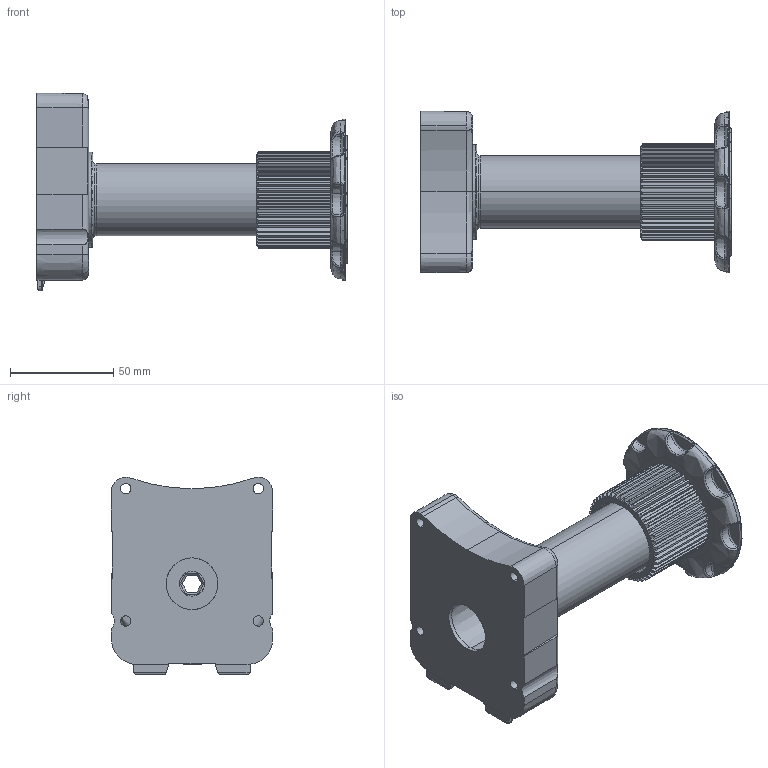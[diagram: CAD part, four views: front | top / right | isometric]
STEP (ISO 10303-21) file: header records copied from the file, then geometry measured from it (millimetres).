
FILE_DESCRIPTION (( 'STEP AP214' ), '1' );
FILE_NAME ('540915.STEP', '2020-02-24T13:41:33', ( '' ), ( '' ), 'SwSTEP 2.0', 'SolidWorks 2019', '' );
FILE_SCHEMA (( 'AUTOMOTIVE_DESIGN' ));
Length unit declared in the file: millimetre
Products named in the file (1): 540915
Bounding box: 150 x 78.1 x 95.5 mm (x, y, z)
Volume: 226997.5 mm3; surface area: 81997.8 mm2
Topology: 4 solids, 4 shells, 633 faces, 1837 edges, 1208 vertices
Faces by surface type: plane 269, cylinder 162, bspline 118, cone 45, torus 39
Entity records: 39060 total; most frequent: CARTESIAN_POINT 16588, ORIENTED_EDGE 3658, DIRECTION 2765, EDGE_CURVE 1829, VERTEX_POINT 1208, AXIS2_PLACEMENT_3D 1062, EDGE_LOOP 653, LINE 641
